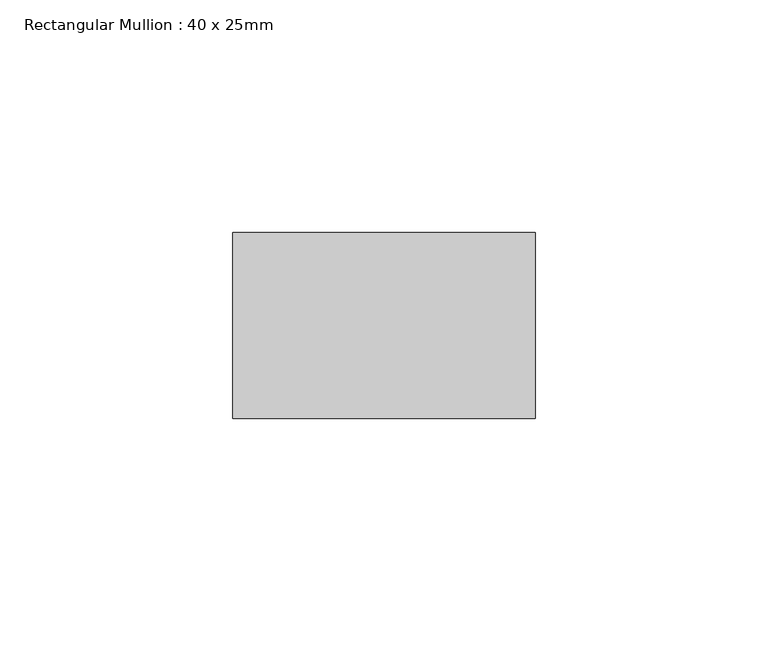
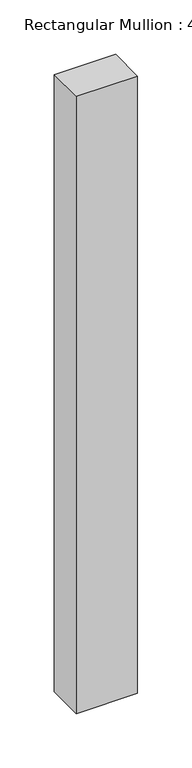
"""IFC4 building model written with IfcOpenShell, lengths in millimetres: member geometry, Rectangular Mullion : 40 x 25mm."""

from ifc_helpers import new_model, si_unit, frame, origin, place, context, project, spatial, polyline, outline, extrude, source, transform, mapped, element, save


def rectangular_mullion_40_x_25mm_c3ec70f9(model_context):
    return source(origin(), model_context, "Body", "SweptSolid", [
        extrude(outline(polyline([(0.0, -20.0), (0.0, -60.0), (-65.0, -60.0), (-65.0, -20.0), (0.0, -20.0)])), frame((0.0, 0.0, -692.1813616), z_axis=(0.0, 0.0, 1.0), x_axis=(1.0, 0.0, 0.0)), (0.0, 0.0, 1.0), 692.1813616),
    ])


if __name__ == "__main__":
    model = new_model("IFC4")
    model_context = context("Model", 3, world=origin())
    ifc_project = project(units=[si_unit("LENGTHUNIT", "METRE", prefix="MILLI")], contexts=[model_context])
    site = spatial("IfcSite", under=ifc_project)
    building = spatial("IfcBuilding", under=site)
    placement = place(None, origin())
    rectangular_mullion_40_x_25mm_shape = rectangular_mullion_40_x_25mm_c3ec70f9(model_context)
    element("IfcMember", 1, ObjectType="Rectangular Mullion : 40 x 25mm", at=placement, inside=building, context=model_context, shape_type="MappedRepresentation", body=[
        mapped(rectangular_mullion_40_x_25mm_shape, transform((0.0, 0.0, 0.0), x_axis=(1.0, 0.0, 0.0), y_axis=(0.0, 1.0, 0.0), z_axis=(0.0, 0.0, 1.0))),
    ])
    save(model, "model.ifc")
